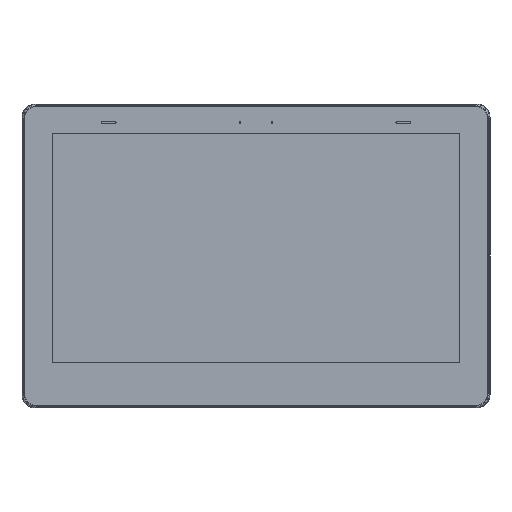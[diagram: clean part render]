
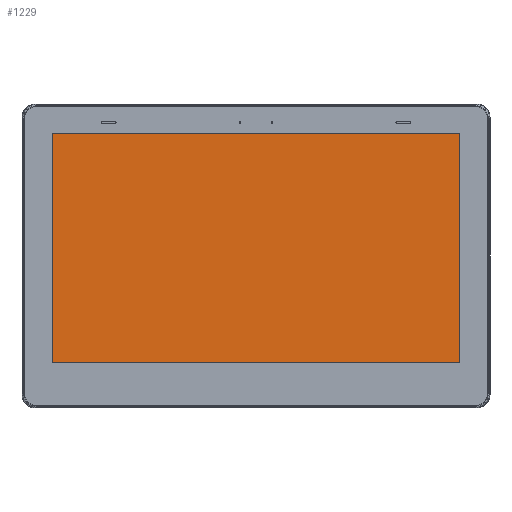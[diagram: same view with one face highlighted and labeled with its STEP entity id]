
A CAD part, top view. The second image highlights one B-rep face of the part: STEP entity #1229.
In plain terms, the highlighted planar face has unit normal (0, 0, 1).
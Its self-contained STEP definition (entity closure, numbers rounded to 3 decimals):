
#1229 = ADVANCED_FACE ( 'NONE', ( #17973 ), #68304, .T. ) ;
#5592 = DIRECTION ( 'NONE',  ( 0., 0., 1. ) ) ;
#6855 = CARTESIAN_POINT ( 'NONE',  ( -171.45, -44.14, 55.397 ) ) ;
#17040 = EDGE_LOOP ( 'NONE', ( #45479, #151061, #156820, #156500 ) ) ;
#17973 = FACE_OUTER_BOUND ( 'NONE', #17040, .T. ) ;
#26381 = EDGE_CURVE ( 'NONE', #68804, #72352, #87044, .T. ) ;
#28938 = CARTESIAN_POINT ( 'NONE',  ( -171.45, 148.36, 55.397 ) ) ;
#34365 = DIRECTION ( 'NONE',  ( 0., -1., 0. ) ) ;
#40041 = CARTESIAN_POINT ( 'NONE',  ( -171.45, 148.36, 55.397 ) ) ;
#41841 = LINE ( 'NONE', #144833, #100070 ) ;
#45163 = DIRECTION ( 'NONE',  ( 1., 0., 0. ) ) ;
#45479 = ORIENTED_EDGE ( 'NONE', *, *, #156846, .T. ) ;
#46979 = EDGE_CURVE ( 'NONE', #56160, #152544, #41841, .T. ) ;
#50758 = DIRECTION ( 'NONE',  ( -1., 0., 0. ) ) ;
#56160 = VERTEX_POINT ( 'NONE', #6855 ) ;
#59130 = LINE ( 'NONE', #157279, #161983 ) ;
#68304 = PLANE ( 'NONE',  #77021 ) ;
#68804 = VERTEX_POINT ( 'NONE', #77309 ) ;
#72352 = VERTEX_POINT ( 'NONE', #28938 ) ;
#73094 = VECTOR ( 'NONE', #75299, 1000. ) ;
#75299 = DIRECTION ( 'NONE',  ( 0., 1., 0. ) ) ;
#77021 = AXIS2_PLACEMENT_3D ( 'NONE', #120154, #5592, #45163 ) ;
#77309 = CARTESIAN_POINT ( 'NONE',  ( 171.05, 148.36, 55.397 ) ) ;
#85401 = CARTESIAN_POINT ( 'NONE',  ( 171.05, -44.14, 55.397 ) ) ;
#87044 = LINE ( 'NONE', #40041, #113405 ) ;
#98102 = EDGE_CURVE ( 'NONE', #152544, #68804, #150332, .T. ) ;
#100070 = VECTOR ( 'NONE', #132463, 1000. ) ;
#113405 = VECTOR ( 'NONE', #50758, 1000. ) ;
#120154 = CARTESIAN_POINT ( 'NONE',  ( 0., 0., 55.397 ) ) ;
#123950 = CARTESIAN_POINT ( 'NONE',  ( 171.05, 148.36, 55.397 ) ) ;
#132463 = DIRECTION ( 'NONE',  ( 1., 0., 0. ) ) ;
#144833 = CARTESIAN_POINT ( 'NONE',  ( -171.45, -44.14, 55.397 ) ) ;
#150332 = LINE ( 'NONE', #123950, #73094 ) ;
#151061 = ORIENTED_EDGE ( 'NONE', *, *, #46979, .T. ) ;
#152544 = VERTEX_POINT ( 'NONE', #85401 ) ;
#156500 = ORIENTED_EDGE ( 'NONE', *, *, #26381, .T. ) ;
#156820 = ORIENTED_EDGE ( 'NONE', *, *, #98102, .T. ) ;
#156846 = EDGE_CURVE ( 'NONE', #72352, #56160, #59130, .T. ) ;
#157279 = CARTESIAN_POINT ( 'NONE',  ( -171.45, 148.36, 55.397 ) ) ;
#161983 = VECTOR ( 'NONE', #34365, 1000. ) ;
